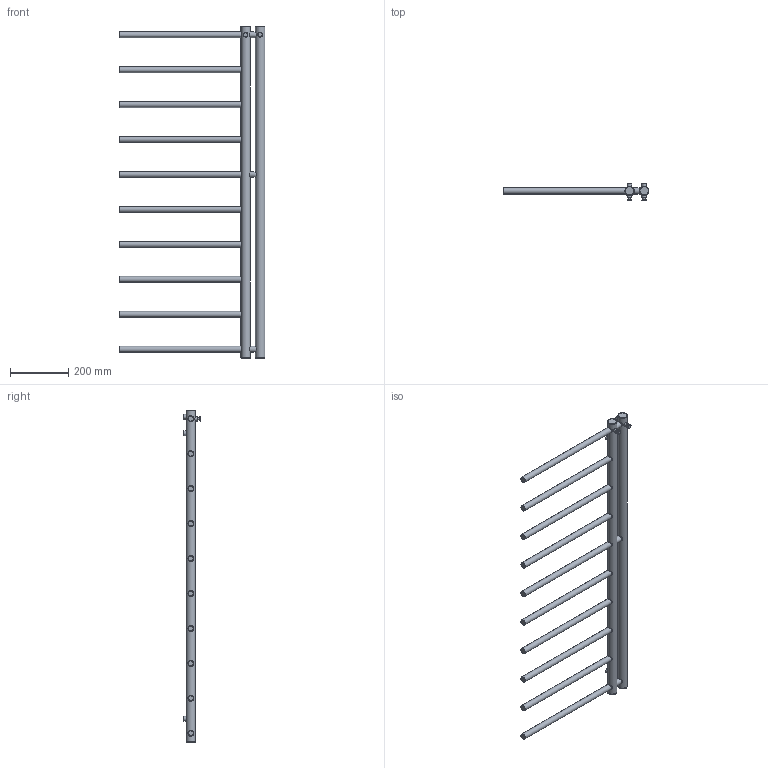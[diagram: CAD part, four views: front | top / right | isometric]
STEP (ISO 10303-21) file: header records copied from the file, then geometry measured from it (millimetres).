
FILE_DESCRIPTION(/* description */ ('Unknown'),/* implementation_level */ '2;1');
FILE_NAME(/* name */ 'AP1-L',/* time_stamp */ '2022-09-25T19:45:31+02:00',/* author */ ('Unknown'),/* organization */ ('Unknown'),/* preprocessor_version */ 'ST-DEVELOPER v18.102',/* originating_system */ 'Solid Edge',/* authorisation */ 'Unknown');
FILE_SCHEMA (('AUTOMOTIVE_DESIGN {1 0 10303 214 3 1 1}'));
Length unit declared in the file: millimetre
Products named in the file (11): AP1-L; AP-L_V-R-TR-32-1,5-1137; AP-L_V-L-TR-32-1,5-1137; AP_H-TR-20-1,5-30; MD_Víèko se závitem G1-2 pr_32; AP_H-TR-20-1,5-422,5; MD_Víèko slepé pr_32; MD_Víèko slepé pr_20; MD_T靗o odvzdu汄ovac韍o ventilu; MD_Úchyt pr_32; MD_Háèek pr_32
Assembly tree (36 placements, depth 2):
  AP1-L
    AP-L_V-R-TR-32-1,5-1137
    AP-L_V-L-TR-32-1,5-1137
    AP_H-TR-20-1,5-30  x3
    MD_Víèko se závitem G1-2 pr_32  x2
    AP_H-TR-20-1,5-422,5  x10
    MD_Víèko slepé pr_32  x2
    MD_Víèko slepé pr_20  x10
    MD_T靗o odvzdu汄ovac韍o ventilu
    MD_Úchyt pr_32  x4
    MD_Háèek pr_32  x2
Bounding box: 500 x 60 x 1140 mm (x, y, z)
Volume: 720951.2 mm3; surface area: 953432.6 mm2
Topology: 36 solids, 36 shells, 221 faces, 397 edges, 262 vertices
Faces by surface type: cylinder 102, plane 90, cone 15, torus 14
Full cylindrical faces by diameter (mm): 2 x1, 6.647 x1, 8 x2, 10.106 x4, 16 x10, 16.7 x10, 17 x13, 18.631 x2, 19.2 x10, 20 x29, 22 x2, 28.7 x4, 29 x2, 31.2 x4, 32 x2
Entity records: 3186 total; most frequent: CARTESIAN_POINT 1086, DIRECTION 354, ORIENTED_EDGE 196, EDGE_LOOP 188, FACE_BOUND 188, AXIS2_PLACEMENT_3D 176, EDGE_CURVE 98, VERTEX_POINT 96
